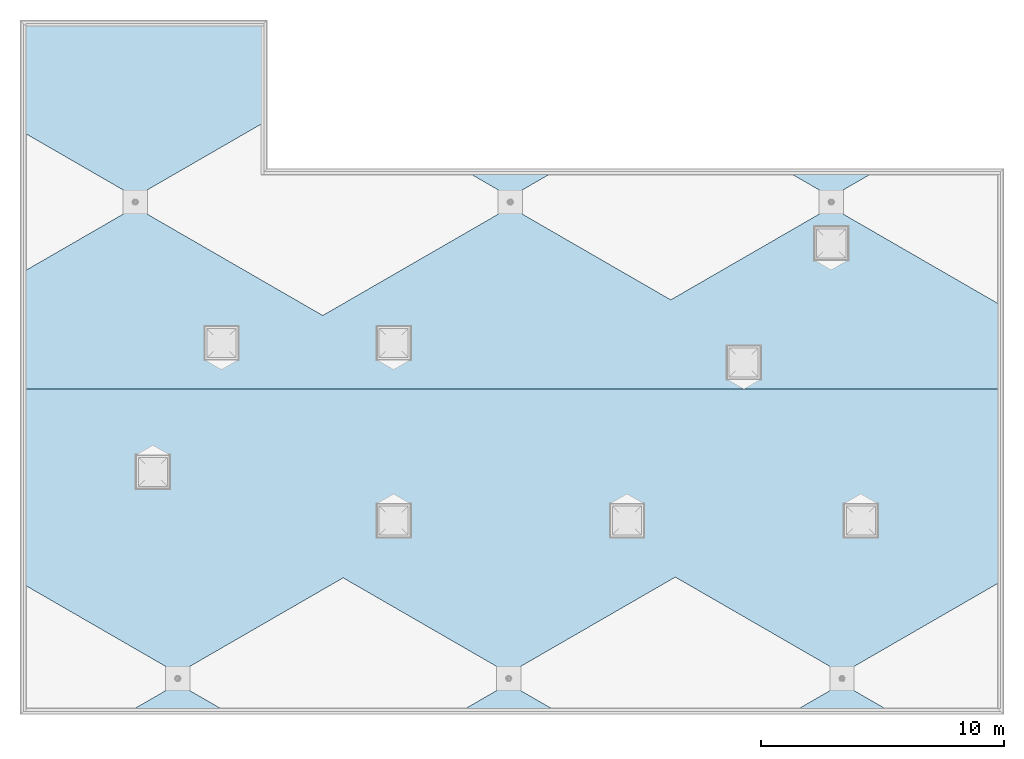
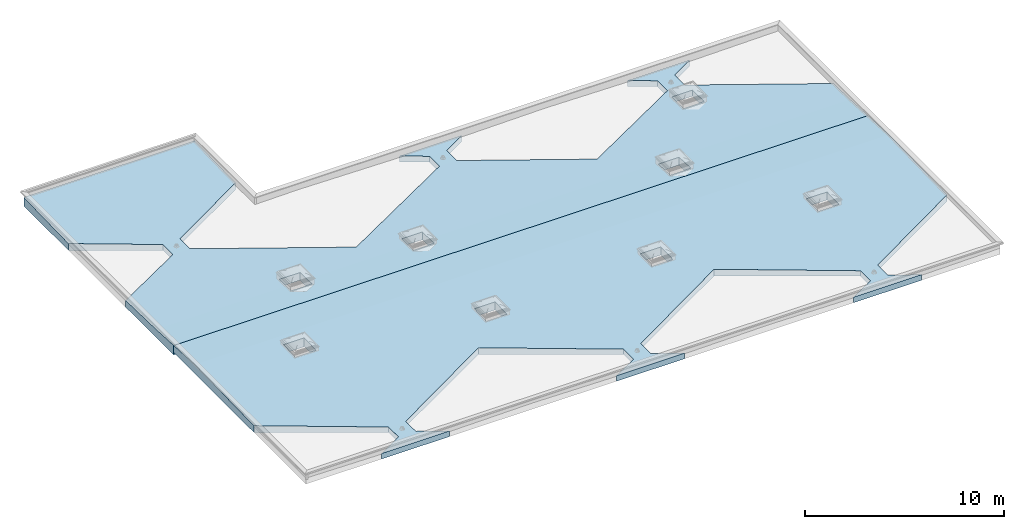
# One storey, part 2 of 5: 2 roofs.
"""IFC2X3 building model written with IfcOpenShell, lengths in millimetres."""

from ifc_helpers import new_model, entity, si_unit, converted_unit, derived_unit, direction, frame, origin, place, context, subcontext, project, spatial, faceted_brep, material, element, save


model = new_model("IFC2X3")

# Units and contexts
model_context = context("Model", 3, precision=0.01, world=origin(), true_north=direction((6.12303176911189e-17, 1.0)))
body_context = subcontext(model_context, "Body", "Model", "MODEL_VIEW")
ifc_project = project(units=[si_unit("LENGTHUNIT", "METRE", prefix="MILLI"), si_unit("AREAUNIT", "SQUARE_METRE"), si_unit("VOLUMEUNIT", "CUBIC_METRE"), converted_unit("PLANEANGLEUNIT", "DEGREE", entity("IfcRatioMeasure", 0.0174532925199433), si_unit("PLANEANGLEUNIT", "RADIAN"), dimensions=[0, 0, 0, 0, 0, 0, 0]), si_unit("MASSUNIT", "GRAM", prefix="KILO"), derived_unit("MASSDENSITYUNIT", [(si_unit("MASSUNIT", "GRAM", prefix="KILO"), 1), (si_unit("LENGTHUNIT", "METRE"), -3)]), si_unit("TIMEUNIT", "SECOND"), si_unit("FREQUENCYUNIT", "HERTZ"), si_unit("THERMODYNAMICTEMPERATUREUNIT", "DEGREE_CELSIUS"), derived_unit("THERMALTRANSMITTANCEUNIT", [(si_unit("MASSUNIT", "GRAM", prefix="KILO"), 1), (si_unit("THERMODYNAMICTEMPERATUREUNIT", "KELVIN"), -1), (si_unit("TIMEUNIT", "SECOND"), -3)]), derived_unit("VOLUMETRICFLOWRATEUNIT", [(si_unit("LENGTHUNIT", "METRE"), 3), (si_unit("TIMEUNIT", "SECOND"), -1)]), si_unit("ELECTRICCURRENTUNIT", "AMPERE"), si_unit("ELECTRICVOLTAGEUNIT", "VOLT"), si_unit("POWERUNIT", "WATT"), si_unit("FORCEUNIT", "NEWTON", prefix="KILO"), si_unit("ILLUMINANCEUNIT", "LUX"), si_unit("LUMINOUSFLUXUNIT", "LUMEN"), si_unit("LUMINOUSINTENSITYUNIT", "CANDELA"), derived_unit("USERDEFINED", [(si_unit("MASSUNIT", "GRAM", prefix="KILO"), -1), (si_unit("LENGTHUNIT", "METRE"), -2), (si_unit("TIMEUNIT", "SECOND"), 3), (si_unit("LUMINOUSFLUXUNIT", "LUMEN"), 1)]), derived_unit("LINEARVELOCITYUNIT", [(si_unit("LENGTHUNIT", "METRE"), 1), (si_unit("TIMEUNIT", "SECOND"), -1)]), si_unit("PRESSUREUNIT", "PASCAL"), derived_unit("USERDEFINED", [(si_unit("LENGTHUNIT", "METRE"), -2), (si_unit("MASSUNIT", "GRAM", prefix="KILO"), 1), (si_unit("TIMEUNIT", "SECOND"), -2)])], contexts=[model_context])

# Site, building, storey
site_placement = place(None, origin())
site = spatial("IfcSite", under=ifc_project, at=site_placement, Name="Default", CompositionType="ELEMENT")
building_placement = place(site_placement, origin())
building = spatial("IfcBuilding", under=site, at=building_placement, CompositionType="ELEMENT")
storey_placement = place(building_placement, frame((0.0, 0.0, 8000.0)))
storey = spatial("IfcBuildingStorey", under=building, at=storey_placement, Name="KATUS", CompositionType="ELEMENT", Elevation=8000.0)

# Roofs
ifc_material = material(Name="Soojusisolatsioon EPS")
roof_1_placement = place(storey_placement, frame((-350.0, -350.0, 0.0)))
element("IfcRoof", 1, at=roof_1_placement, inside=storey, material=ifc_material, Name="Basic Roof:KL-2", ObjectType="Basic Roof:KL-2", ShapeType="NOTDEFINED", context=body_context, shape_type="Brep", body=[
    faceted_brep([(0.0, 13260.0, 444.294871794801), (0.0, 13260.0, 0.0), (0.0, 5227.49915859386, 0.0), (0.0, 5227.49915859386, 404.437478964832), (0.0, 11150.0, 552.499999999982), (8322.24314988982, 0.0, 341.299999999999), (4377.75685010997, 0.0, 341.299999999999), (4377.75685010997, 0.0, 0.0), (8322.24314988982, 0.0, 0.0), (40200.0, 13260.0, 0.0), (40200.0, 13260.0, 444.294871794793), (40200.0, 11150.0, 552.500000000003), (40200.0, 5328.53545820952, 406.963386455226), (40200.0, 5328.53545820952, 0.0), (6850.0, 850.0, 320.0), (5850.0, 850.0, 320.0), (34175.0, 1850.0, 0.0), (34175.0, 850.0, 0.0), (35647.2431498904, 0.0, 0.0), (31702.7568501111, 0.0, 0.0), (33175.0, 850.0, 0.0), (33175.0, 1850.0, 0.0), (26817.5000789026, 5520.50438192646, 0.0), (20460.0, 1850.0, 0.0), (20460.0, 850.0, 0.0), (21932.2431864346, 0.0, 0.0), (17987.7568135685, 0.0, 0.0), (19460.0, 850.0, 0.0), (19460.0, 1850.0, 0.0), (13154.9999217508, 5490.19349241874, 0.0), (6850.0, 1850.0, 0.0), (6850.0, 850.0, 0.0), (5850.0, 850.0, 0.0), (5850.0, 1850.0, 0.0), (5930.0, 10450.0, 0.0), (4730.0, 10450.0, 0.0), (4730.0, 9250.0, 0.0), (5930.0, 9250.0, 0.0), (15829.9978270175, 8450.0, 0.0), (14629.9978270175, 8450.0, 0.0), (14629.9978270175, 7250.0, 0.0), (15829.9978270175, 7250.0, 0.0), (25430.0, 8450.0, 0.0), (24230.0, 8450.0, 0.0), (24230.0, 7250.0, 0.0), (25430.0, 7250.0, 0.0), (35050.0, 8450.0, 0.0), (33850.0, 8450.0, 0.0), (33850.0, 7250.0, 0.0), (35050.0, 7250.0, 0.0), (33175.0, 850.0, 320.0), (34175.0, 850.0, 320.0), (34175.0, 1850.0, 320.0), (33175.0, 1850.0, 320.0), (5850.0, 1850.0, 320.0), (19460.0, 850.0, 320.0), (17987.7568135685, 0.0, 341.299999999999), (19460.0, 1850.0, 320.0), (13154.9999217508, 5490.19349241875, 411.004837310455), (6850.0, 1850.0, 320.0), (20460.0, 850.0, 320.0), (21932.2431864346, 0.0, 341.3), (31702.7568501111, 0.0, 341.299999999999), (26817.5000789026, 5520.50438192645, 411.762609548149), (20460.0, 1850.0, 320.0), (35647.2431498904, 0.0, 341.299999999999), (4730.0, 10450.0, 535.0), (5930.0, 10450.0, 535.0), (5930.0, 9250.0, 505.0), (4730.0, 9250.0, 505.0), (14629.9978270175, 8450.0, 485.0), (15829.9978270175, 8450.0, 485.0), (15829.9978270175, 7250.0, 455.0), (14629.9978270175, 7250.0, 455.0), (24230.0, 8450.0, 485.0), (25430.0, 8450.0, 485.0), (25430.0, 7250.0, 455.0), (24230.0, 7250.0, 455.0), (33850.0, 8450.0, 485.0), (35050.0, 8450.0, 485.0), (35050.0, 7250.0, 455.0), (33850.0, 7250.0, 455.0)], [[[0, 1, 2, 3, 4]], [[5, 6, 7, 8]], [[9, 10, 11, 12, 13]], [[9, 1, 0, 10]], [[6, 5, 14, 15]], [[1, 9, 13, 16, 17, 18, 19, 20, 21, 22, 23, 24, 25, 26, 27, 28, 29, 30, 31, 8, 7, 32, 33, 2], [34, 35, 36, 37], [38, 39, 40, 41], [42, 43, 44, 45], [46, 47, 48, 49]], [[50, 51, 52, 53]], [[15, 32, 7, 6]], [[32, 15, 54, 33]], [[33, 54, 3, 2]], [[55, 27, 26, 56]], [[27, 55, 57, 28]], [[28, 57, 58, 29]], [[59, 30, 29, 58]], [[14, 31, 30, 59]], [[31, 14, 5, 8]], [[24, 60, 61, 25]], [[50, 20, 19, 62]], [[20, 50, 53, 21]], [[21, 53, 63, 22]], [[64, 23, 22, 63]], [[60, 24, 23, 64]], [[52, 16, 13, 12]], [[51, 17, 16, 52]], [[17, 51, 65, 18]], [[11, 4, 3, 54, 59, 58, 57, 64, 63, 53, 52, 12], [66, 67, 68, 69], [70, 71, 72, 73], [74, 75, 76, 77], [78, 79, 80, 81]], [[10, 0, 4, 11]], [[34, 67, 66, 35]], [[35, 66, 69, 36]], [[36, 69, 68, 37]], [[67, 34, 37, 68]], [[38, 71, 70, 39]], [[39, 70, 73, 40]], [[40, 73, 72, 41]], [[71, 38, 41, 72]], [[42, 75, 74, 43]], [[43, 74, 77, 44]], [[44, 77, 76, 45]], [[75, 42, 45, 76]], [[46, 79, 78, 47]], [[47, 78, 81, 48]], [[48, 81, 80, 49]], [[79, 46, 49, 80]], [[55, 60, 64, 57]], [[15, 14, 59, 54]], [[56, 61, 60, 55]], [[62, 65, 51, 50]], [[61, 56, 26, 25]], [[65, 62, 19, 18]]]),
])
roof_2_placement = place(storey_placement, frame((-350.0, 12910.0, -135.0)))
element("IfcRoof", 2, at=roof_2_placement, inside=storey, material=ifc_material, Name="Basic Roof:KL-1", ObjectType="Basic Roof:KL-1", ShapeType="NOTDEFINED", context=body_context, shape_type="Brep", body=[
    faceted_brep([(40200.0, 0.0, 0.0), (0.0, 0.0, 0.0), (0.0, 4822.86382407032, 0.0), (4100.0, 7189.99992774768, 0.0), (4100.0, 8189.99992774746, 0.0), (0.0, 10557.136031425, 0.0), (0.0, 15039.9994345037, 0.0), (9900.0, 15039.9994345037, 0.0), (9900.0, 10961.2812198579, 0.0), (5100.0, 8189.99992774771, 0.0), (5100.0, 7189.99992774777, 0.0), (12314.9999465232, 3024.4177664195, 0.0), (19530.0, 7190.0, 0.0), (19530.0, 8190.0, 0.0), (18230.9619125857, 8940.0, 0.0), (21829.0381239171, 8940.0, 0.0), (20530.0, 8190.0, 0.0), (20530.0, 7190.0, 0.0), (26630.0, 3668.16336310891, 0.0), (32730.0, 7190.0, 0.0), (32730.0, 8190.0, 0.0), (31430.9618943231, 8940.0, 0.0), (35029.0381056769, 8940.0, 0.0), (33730.0, 8190.0, 0.0), (33730.0, 7190.0, 0.0), (40200.0, 3454.54375837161, 0.0), (8750.0, 1290.0, 0.0), (8750.0, 2490.0, 0.0), (7550.0, 2490.0, 0.0), (7550.0, 1290.0, 0.0), (15829.9978270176, 1290.0, 0.0), (15829.9978270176, 2490.0, 0.0), (14629.9978270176, 2490.0, 0.0), (14629.9978270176, 1290.0, 0.0), (30229.9978270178, 490.0, 0.0), (30229.9978270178, 1690.0, 0.0), (29029.9978270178, 1690.0, 0.0), (29029.9978270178, 490.0, 0.0), (33829.9978270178, 5390.0, 0.0), (33829.9978270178, 6590.0, 0.0), (32629.9978270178, 6590.0, 0.0), (32629.9978270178, 5390.0, 0.0), (40200.0, 0.0, 579.294871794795), (0.0, 0.0, 579.294871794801), (40200.0, 3454.54375837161, 448.386406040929), (40200.0, 1790.0, 490.0), (0.0, 15039.9994345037, 526.250000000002), (0.0, 10557.136031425, 414.178405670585), (9900.0, 15039.9994345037, 526.250000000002), (15829.9978270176, 1790.0, 490.0), (15829.9978270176, 1290.0, 514.942701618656), (14629.9978270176, 1290.0, 514.942701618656), (14629.9978270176, 1790.0, 490.0), (8750.0, 1790.0, 490.0), (8750.0, 1290.0, 514.942701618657), (7550.0, 1290.0, 514.942701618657), (7550.0, 1790.0, 490.0), (0.0, 1790.0, 490.0), (30229.9978270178, 1690.0, 494.988540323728), (30229.9978270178, 490.0, 554.851024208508), (29029.9978270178, 490.0, 554.851024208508), (29029.9978270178, 1690.0, 494.988540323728), (32730.0, 8190.0, 355.0), (33730.0, 8190.0, 355.0), (35029.0381056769, 8940.0, 373.750001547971), (31430.9618943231, 8940.0, 373.750001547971), (33730.0, 7190.0, 355.0), (32730.0, 7190.0, 355.0), (26630.0, 3668.16336310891, 443.045915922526), (20530.0, 7190.0, 355.0), (19530.0, 7190.0, 355.0), (12314.9999465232, 3024.4177664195, 459.139555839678), (5100.0, 7190.0, 355.0), (4100.00012519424, 7190.0, 355.0), (0.0, 4822.86382407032, 414.178404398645), (7550.0, 2490.0, 472.500000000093), (8750.0, 2490.0, 472.500000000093), (14629.9978270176, 2490.0, 472.500000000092), (15829.9978270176, 2490.0, 472.500000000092), (33829.9978270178, 6590.0, 370.0), (33829.9978270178, 5390.0, 400.0), (32629.9978270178, 5390.0, 400.0), (32629.9978270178, 6590.0, 370.0), (9900.0, 10961.2812198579, 424.282036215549), (5100.0, 8190.0, 355.0), (5099.99996868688, 7189.99994582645, 355.000001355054), (19530.0, 8190.0, 355.0), (18230.9619125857, 8940.0, 373.750001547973), (21829.0381239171, 8940.0, 373.750001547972), (20530.0, 8190.0, 355.0), (4099.99987480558, 8190.0, 355.0), (4100.0, 7190.0, 355.0), (5100.00012519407, 8190.0, 355.0), (4100.0, 8190.0, 355.0)], [[[0, 1, 2, 3, 4, 5, 6, 7, 8, 9, 10, 11, 12, 13, 14, 15, 16, 17, 18, 19, 20, 21, 22, 23, 24, 25], [26, 27, 28, 29], [30, 31, 32, 33], [34, 35, 36, 37], [38, 39, 40, 41]], [[1, 0, 42, 43]], [[42, 0, 25, 44, 45]], [[46, 6, 5, 47]], [[6, 46, 48, 7]], [[43, 42, 45, 49, 50, 51, 52, 53, 54, 55, 56, 57], [58, 59, 60, 61]], [[62, 63, 64, 65]], [[45, 44, 66, 67, 68, 69, 70, 71, 72, 73, 74, 57, 56, 75, 76, 53, 52, 77, 78, 49], [79, 80, 81, 82]], [[63, 62, 67, 66]], [[8, 83, 84, 9]], [[9, 84, 85, 10]], [[10, 85, 71, 11]], [[11, 71, 70, 12]], [[12, 70, 86, 13]], [[13, 86, 87, 14]], [[14, 87, 88, 15]], [[15, 88, 89, 16]], [[16, 89, 69, 17]], [[17, 69, 68, 18]], [[18, 68, 67, 19]], [[19, 67, 62, 20]], [[20, 62, 65, 21]], [[21, 65, 64, 22]], [[22, 64, 63, 23]], [[23, 63, 66, 24]], [[24, 66, 44, 25]], [[83, 8, 7, 48]], [[4, 90, 47, 5]], [[91, 3, 2, 74]], [[90, 4, 3, 91]], [[26, 54, 53, 76, 27]], [[27, 76, 75, 28]], [[28, 75, 56, 55, 29]], [[54, 26, 29, 55]], [[30, 50, 49, 78, 31]], [[31, 78, 77, 32]], [[32, 77, 52, 51, 33]], [[50, 30, 33, 51]], [[34, 59, 58, 35]], [[35, 58, 61, 36]], [[36, 61, 60, 37]], [[59, 34, 37, 60]], [[38, 80, 79, 39]], [[39, 79, 82, 40]], [[40, 82, 81, 41]], [[80, 38, 41, 81]], [[89, 86, 70, 69]], [[92, 93, 73, 72]], [[86, 89, 88, 87]], [[48, 46, 47, 90, 92, 83]], [[1, 43, 57, 74, 2]]]),
])

save(model, "model.ifc")
